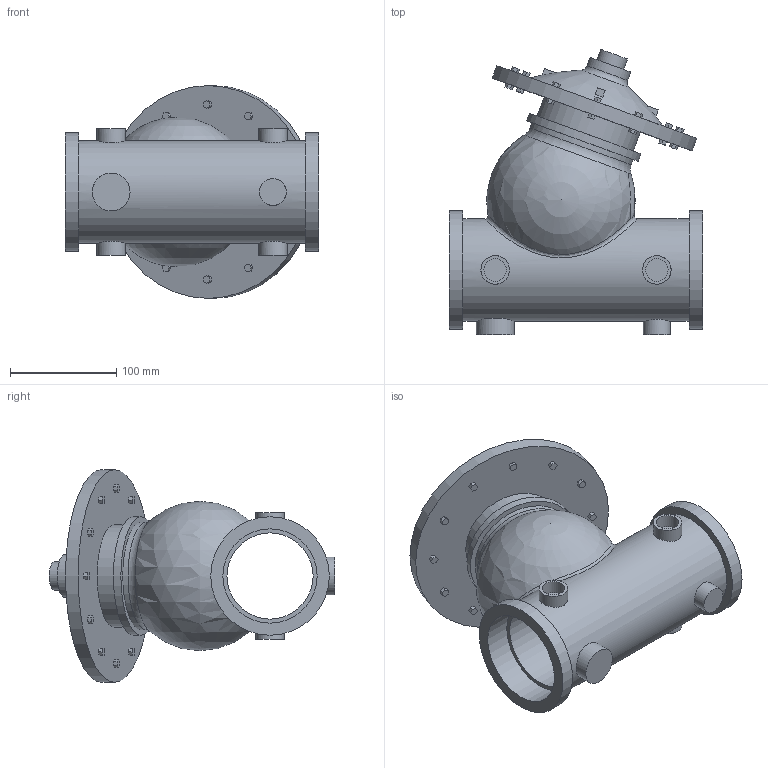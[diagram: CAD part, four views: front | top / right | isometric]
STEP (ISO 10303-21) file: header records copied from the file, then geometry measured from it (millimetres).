
FILE_DESCRIPTION(/* description */ ('VIC FP VALVE PRESSURE RELIEF SERIES 867-7UF (FPT)','CAx-IF Rec.Pracs.---Representation and Presentation of Product Manufacturing Information (PMI)---4.0---2014-10-13'),/* implementation_level */ '2;1');
FILE_NAME(/* name */ 'C:\Series 867-7UF\Series 867-7UF final\Victaulic_FP-Bermad_Valve Pressure Relief_Series 867-7UF (FPT)\Victaulic_FP-Bermad_Valve Pressure Relief_Series 867-7UF (FPT)_3 (80).stp',/* time_stamp */ '2021-09-02T13:09:52+06:00',/* author */ ('kkamble'),/* organization */ ('Victaulic'),/* preprocessor_version */ 'ST-DEVELOPER v17.2',/* originating_system */ 'Autodesk Inventor 2019',/* authorisation */ '');
FILE_SCHEMA (('AP242_MANAGED_MODEL_BASED_3D_ENGINEERING_MIM_LF { 1 0 10303 442 1 1 4 }'));
Length unit declared in the file: inch
Products named in the file (1): 867-7UF-03.0
Bounding box: 238.76 x 269.07 x 200.66 mm (x, y, z)
Volume: 2504166.3 mm3; surface area: 271076.9 mm2
Topology: 1 solids, 1 shells, 235 faces, 591 edges, 403 vertices
Faces by surface type: plane 208, cylinder 22, torus 2, bspline 2, sphere 1
Full cylindrical faces by diameter (mm): 21.336 x4, 25.4 x1, 26.67 x1, 26.873 x4, 35.56 x1, 40.64 x1, 81.28 x1, 88.9 x2, 96.52 x2, 101.6 x1, 111.76 x3, 200.66 x1
Entity records: 7843 total; most frequent: CARTESIAN_POINT 1791, ORIENTED_EDGE 1178, DIRECTION 1130, EDGE_CURVE 589, LINE 478, VECTOR 478, VERTEX_POINT 403, AXIS2_PLACEMENT_3D 326
